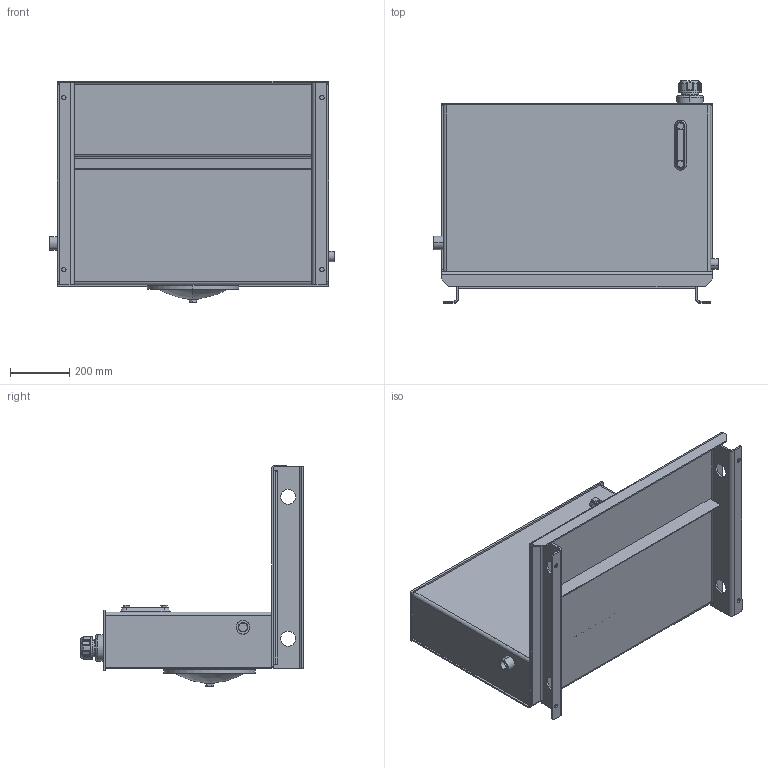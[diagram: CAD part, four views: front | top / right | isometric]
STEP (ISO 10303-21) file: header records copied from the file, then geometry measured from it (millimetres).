
FILE_DESCRIPTION (( 'STEP AP203' ), '1' );
FILE_NAME ('RLC020-FT.STEP', '2015-01-07T16:54:22', ( '' ), ( '' ), 'SwSTEP 2.0', 'SolidWorks 2014', '' );
FILE_SCHEMA (( 'CONFIG_CONTROL_DESIGN' ));
Length unit declared in the file: inch
Products named in the file (1): RLC020-FT
Bounding box: 958.85 x 750.25 x 746.39 mm (x, y, z)
Volume: 12483295.8 mm3; surface area: 5297510.4 mm2
Topology: 20 solids, 20 shells, 695 faces, 1639 edges, 983 vertices
Faces by surface type: cylinder 254, plane 236, cone 82, torus 49, bspline 46, sphere 28
Entity records: 22218 total; most frequent: CARTESIAN_POINT 5980, DIRECTION 3549, ORIENTED_EDGE 3254, EDGE_CURVE 1627, AXIS2_PLACEMENT_3D 1404, VERTEX_POINT 983, EDGE_LOOP 798, CIRCLE 754
